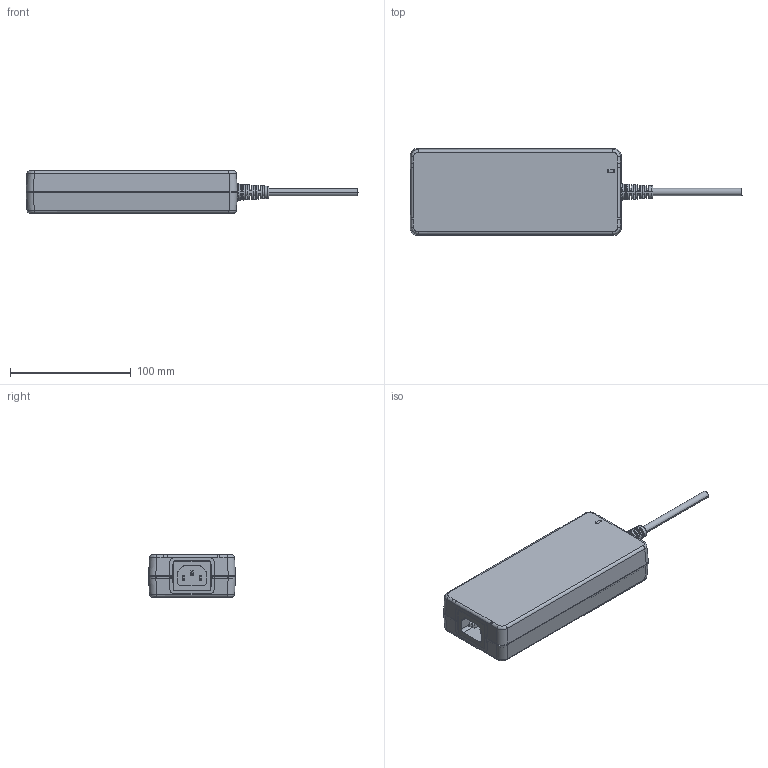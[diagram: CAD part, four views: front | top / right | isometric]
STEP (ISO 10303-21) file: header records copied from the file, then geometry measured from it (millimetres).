
FILE_DESCRIPTION(('Creo Elements/Direct Modeling STEP Export'),'2;1');
FILE_NAME('GS-160.stp','2015-07-23T10:44:19',(''),(''),'PTC Creo Elements/Direct Modeling STEP processor for AP214 (Solid Model)','PTC Creo Elements/Direct Modeling 19.0 09-May-2014 (C) Parametric Technology GmbH','');
FILE_SCHEMA(('AUTOMOTIVE_DESIGN { 1 0 10303 214 1 1 1 1 }'));
Length unit declared in the file: millimetre
Products named in the file (5): cad23792v9gl; Admi8A90habe; GS-160-LENS.stp; cad23792v9gb; GC-160-3
Assembly tree (4 placements, depth 3):
  GC-160-3
    cad23792v9gb
    GS-160-LENS.stp
      Admi8A90habe
    cad23792v9gl
Bounding box: 275.28 x 72.1 x 35 mm (x, y, z)
Volume: 108677.7 mm3; surface area: 94563.7 mm2
Topology: 3 solids, 7 shells, 702 faces, 1960 edges, 1298 vertices
Faces by surface type: plane 401, cylinder 157, cone 74, torus 62, bspline 8
Entity records: 24806 total; most frequent: CARTESIAN_POINT 6825, ORIENTED_EDGE 3928, DIRECTION 3263, EDGE_CURVE 1960, VERTEX_POINT 1296, AXIS2_PLACEMENT_3D 1101, VECTOR 1061, LINE 1061
